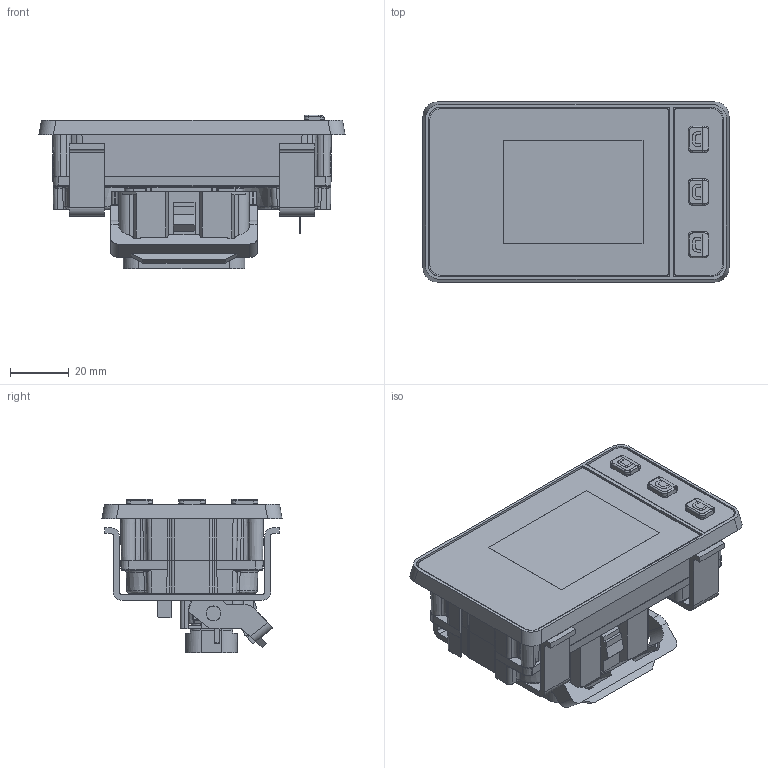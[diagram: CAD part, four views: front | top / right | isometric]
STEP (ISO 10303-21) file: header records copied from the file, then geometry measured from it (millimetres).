
FILE_DESCRIPTION (( 'STEP AP214' ), '1' );
FILE_NAME ('SMARTVIEW.stp', '2016-09-27T08:24:00', ( '' ), ( '' ), 'SwSTEP 2.0', 'SolidWorks 2015', '' );
FILE_SCHEMA (( 'AUTOMOTIVE_DESIGN' ));
Length unit declared in the file: millimetre
Products named in the file (9): SMARTVIEW_3; SMARTVIEW_5; SMARTVIEW_7; SMARTVIEW; SMARTVIEW_1; SMARTVIEW_2; SMARTVIEW_4; SMARTVIEW_6
Assembly tree (8 placements, depth 2):
  SMARTVIEW
    SMARTVIEW_6
    SMARTVIEW_4
    SMARTVIEW_2
    SMARTVIEW_1
    SMARTVIEW
    SMARTVIEW_7
    SMARTVIEW_5
    SMARTVIEW_3
Bounding box: 104.47 x 61.47 x 52.51 mm (x, y, z)
Volume: 87545.9 mm3; surface area: 88560.7 mm2
Topology: 8 solids, 8 shells, 2400 faces, 6505 edges, 4220 vertices
Faces by surface type: plane 1098, cylinder 704, bspline 390, cone 204, torus 4
Entity records: 105141 total; most frequent: CARTESIAN_POINT 35767, ORIENTED_EDGE 13000, DIRECTION 10685, EDGE_CURVE 6500, VERTEX_POINT 4219, AXIS2_PLACEMENT_3D 3571, VECTOR 3543, LINE 3543
